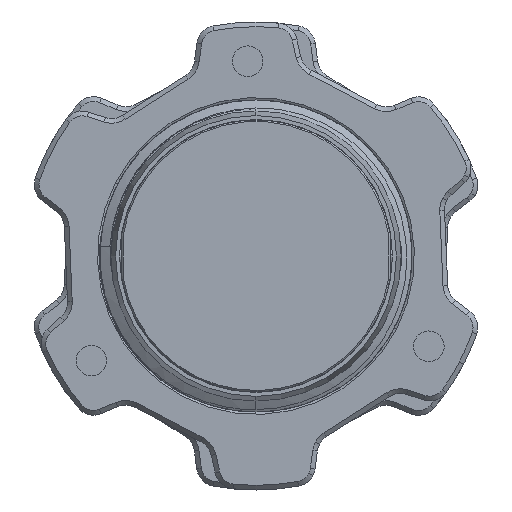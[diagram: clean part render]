
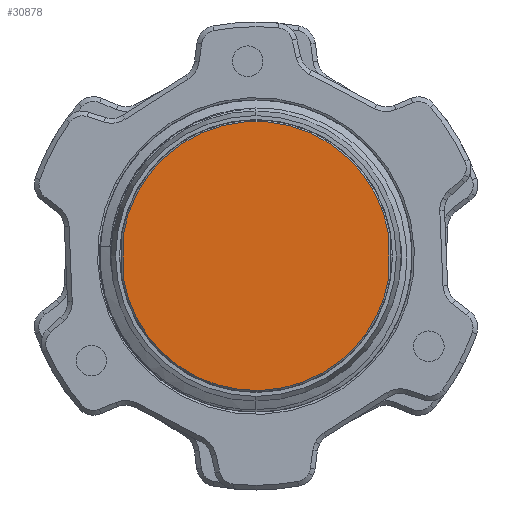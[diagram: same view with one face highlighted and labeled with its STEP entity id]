
A CAD part, front view. The second image highlights one B-rep face of the part: STEP entity #30878.
In plain terms, the highlighted planar face has unit normal (0, -1, 0) as drawn and (0, 0, -1) by its records, which use the part's own axes.
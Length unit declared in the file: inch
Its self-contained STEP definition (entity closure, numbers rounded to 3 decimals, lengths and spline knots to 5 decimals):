
#65 = EDGE_CURVE ( 'NONE', #6995, #36221, #39035, .T. ) ;
#516 = VECTOR ( 'NONE', #33837, 39.37008 ) ;
#1123 = VECTOR ( 'NONE', #18744, 39.37008 ) ;
#1420 = ORIENTED_EDGE ( 'NONE', *, *, #65, .T. ) ;
#1638 = LINE ( 'NONE', #21553, #1123 ) ;
#1917 = DIRECTION ( 'NONE',  ( 0., 0., -1. ) ) ;
#2852 = CARTESIAN_POINT ( 'NONE',  ( 0., 0., 0. ) ) ;
#5236 = CARTESIAN_POINT ( 'NONE',  ( -0.42625, 0.73829, 0. ) ) ;
#6941 = ORIENTED_EDGE ( 'NONE', *, *, #22306, .T. ) ;
#6995 = VERTEX_POINT ( 'NONE', #13257 ) ;
#7740 = EDGE_CURVE ( 'NONE', #14620, #23017, #24354, .T. ) ;
#9538 = DIRECTION ( 'NONE',  ( 0., 0., 1. ) ) ;
#9830 = AXIS2_PLACEMENT_3D ( 'NONE', #10703, #14005, #23869 ) ;
#10179 = ORIENTED_EDGE ( 'NONE', *, *, #7740, .T. ) ;
#10703 = CARTESIAN_POINT ( 'NONE',  ( 0., 0., 0. ) ) ;
#10841 = CARTESIAN_POINT ( 'NONE',  ( -0.53966, 0.67281, 0. ) ) ;
#11430 = EDGE_CURVE ( 'NONE', #12834, #14620, #29742, .T. ) ;
#12834 = VERTEX_POINT ( 'NONE', #33795 ) ;
#13257 = CARTESIAN_POINT ( 'NONE',  ( 0.8625, 0., 0. ) ) ;
#14005 = DIRECTION ( 'NONE',  ( 0., 0., -1. ) ) ;
#14620 = VERTEX_POINT ( 'NONE', #10841 ) ;
#15384 = PLANE ( 'NONE',  #29264 ) ;
#16193 = EDGE_CURVE ( 'NONE', #36221, #12834, #1638, .T. ) ;
#18744 = DIRECTION ( 'NONE',  ( -0.866, -0.5, 0. ) ) ;
#21553 = CARTESIAN_POINT ( 'NONE',  ( 0.42625, -0.73829, 0. ) ) ;
#22306 = EDGE_CURVE ( 'NONE', #23017, #6995, #37813, .T. ) ;
#22775 = AXIS2_PLACEMENT_3D ( 'NONE', #37316, #30693, #37190 ) ;
#23017 = VERTEX_POINT ( 'NONE', #34321 ) ;
#23869 = DIRECTION ( 'NONE',  ( 1., 0., 0. ) ) ;
#24354 = LINE ( 'NONE', #5236, #516 ) ;
#25039 = AXIS2_PLACEMENT_3D ( 'NONE', #34514, #1917, #37889 ) ;
#26424 = ORIENTED_EDGE ( 'NONE', *, *, #16193, .T. ) ;
#29264 = AXIS2_PLACEMENT_3D ( 'NONE', #2852, #9538, #32291 ) ;
#29742 = CIRCLE ( 'NONE', #25039, 0.8625 ) ;
#30597 = CARTESIAN_POINT ( 'NONE',  ( 0.53966, -0.67281, 0. ) ) ;
#30693 = DIRECTION ( 'NONE',  ( 0., 0., -1. ) ) ;
#30710 = FACE_OUTER_BOUND ( 'NONE', #38266, .T. ) ;
#30878 = ADVANCED_FACE ( 'NONE', ( #30710 ), #15384, .F. ) ;
#31206 = ORIENTED_EDGE ( 'NONE', *, *, #11430, .T. ) ;
#32291 = DIRECTION ( 'NONE',  ( 1., 0., 0. ) ) ;
#33795 = CARTESIAN_POINT ( 'NONE',  ( 0.31284, -0.80377, 0. ) ) ;
#33837 = DIRECTION ( 'NONE',  ( 0.866, 0.5, 0. ) ) ;
#34321 = CARTESIAN_POINT ( 'NONE',  ( -0.31284, 0.80377, 0. ) ) ;
#34514 = CARTESIAN_POINT ( 'NONE',  ( 0., 0., 0. ) ) ;
#36221 = VERTEX_POINT ( 'NONE', #30597 ) ;
#37190 = DIRECTION ( 'NONE',  ( 1., 0., 0. ) ) ;
#37316 = CARTESIAN_POINT ( 'NONE',  ( 0., 0., 0. ) ) ;
#37813 = CIRCLE ( 'NONE', #22775, 0.8625 ) ;
#37889 = DIRECTION ( 'NONE',  ( 1., 0., 0. ) ) ;
#38266 = EDGE_LOOP ( 'NONE', ( #31206, #10179, #6941, #1420, #26424 ) ) ;
#39035 = CIRCLE ( 'NONE', #9830, 0.8625 ) ;
